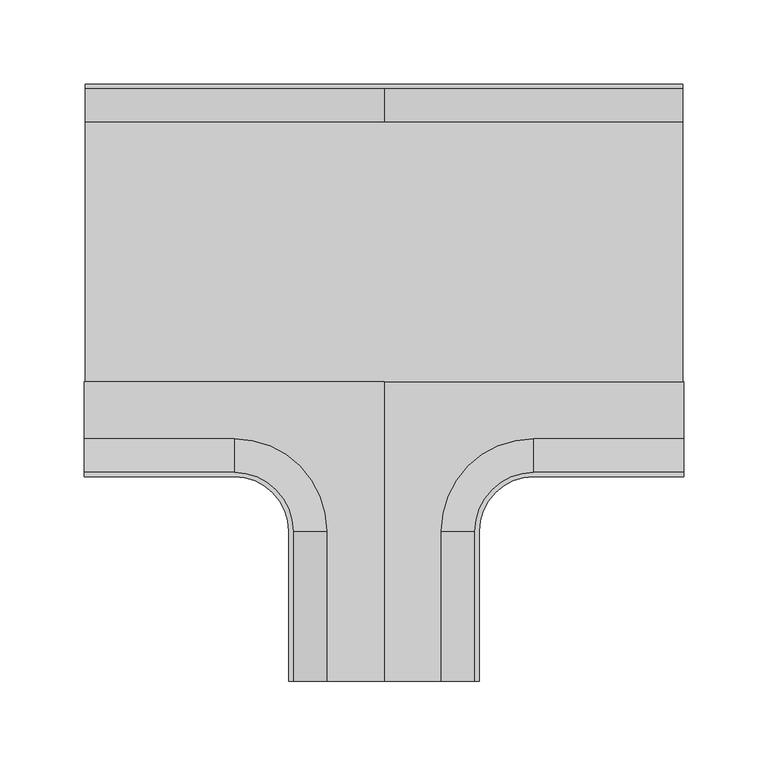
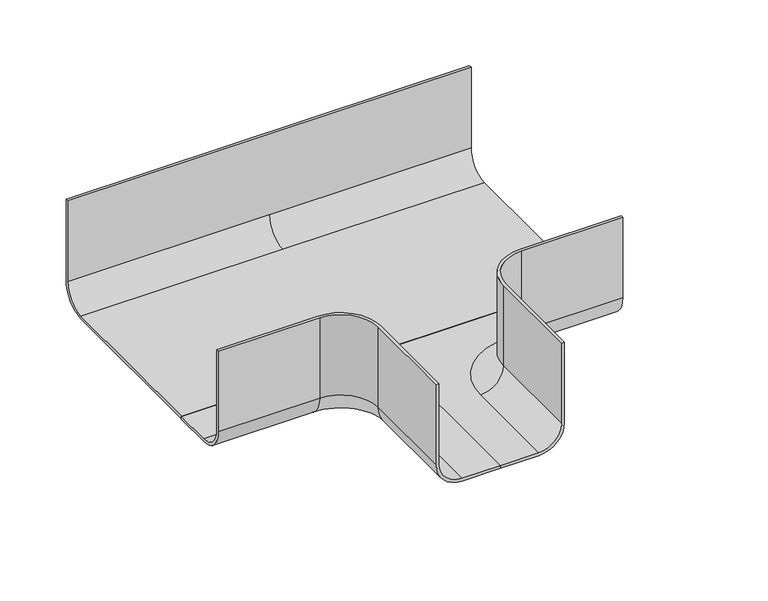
"""IFC4 building model written with IfcOpenShell, lengths in millimetres: cable carrier fitting geometry, ССT_Hyperline_FBTR-240-HTC120 Горизонтальный тройник 240-120-240 для оптического лотка : Горизонтальный тройник 240-120-240 для оптического лотка."""

from ifc_helpers import new_model, si_unit, point, frame, origin, place, context, project, spatial, polyline, circle_curve, ellipse_curve, trimmed, source, transform, mapped, element, save
from ifc_brep_helpers import plane_surface, cylinder_surface, revolved_surface, advanced_brep


def cable_carrier_fitting_a7401430(model_context):
    return source(origin(), model_context, "Body", "AdvancedBrep", [
        advanced_brep(
        [(-178.0, -116.54, -25.0), (-178.0, -116.54, 50.0), (-178.0, -114.0, 50.0), (-178.0, -114.0, -25.0), (-178.0, -94.0, -45.0), (-178.0, -60.0, -45.0), (-178.0, -60.0, -47.54), (-178.0, -94.0, -47.54), (-89.0, -94.0, -47.54), (-89.0, -116.54, -25.0), (-89.0, -114.0, -25.0), (-89.0, -94.0, -45.0), (-89.0, -114.0, 50.0), (-89.0, -116.54, 50.0), (-56.54, -149.0, 50.0), (-56.54, -238.0, 50.0), (-54.0, -238.0, 50.0), (-54.0, -149.0, 50.0), (-34.0, -149.0, -47.54), (-56.54, -149.0, -25.0), (-54.0, -149.0, -25.0), (-34.0, -149.0, -45.0), (0.0, -238.0, -47.54), (0.0, -238.0, -45.0), (-34.0, -238.0, -45.0), (-54.0, -238.0, -25.0), (-56.54, -238.0, -25.0), (-34.0, -238.0, -47.54), (0.0, -60.0, -45.0), (0.0, -60.0, -47.54)],
        [
            (0, 1),
            (1, 2),
            (2, 3),
            (3, 4, circle_curve(frame((-178.0, -94.0, -25.0), z_axis=(1.0, 0.0, 0.0), x_axis=(0.0, -1.0, 0.0)), 20.0)),
            (4, 5),
            (5, 6),
            (6, 7),
            (7, 0, circle_curve(frame((-178.0, -94.0, -25.0), z_axis=(-1.0, 0.0, 0.0), x_axis=(0.0, -1.0, 0.0)), 22.54)),
            (7, 8),
            (8, 9, circle_curve(frame((-89.0, -94.0, -25.0), z_axis=(-1.0, 0.0, 0.0), x_axis=(0.0, -1.0, 0.0)), 22.54)),
            (9, 0),
            (3, 10),
            (10, 11, circle_curve(frame((-89.0, -94.0, -25.0), z_axis=(1.0, 0.0, 0.0), x_axis=(0.0, -1.0, 0.0)), 20.0)),
            (11, 4),
            (2, 12),
            (12, 10),
            (1, 13),
            (13, 14, circle_curve(frame((-89.0, -149.0, 50.0), z_axis=(0.0, 0.0, -1.0), x_axis=(0.0, 1.0, 0.0)), 32.46)),
            (14, 15),
            (15, 16),
            (16, 17),
            (17, 12, circle_curve(frame((-89.0, -149.0, 50.0), z_axis=(0.0, 0.0, 1.0), x_axis=(0.0, 1.0, 0.0)), 35.0)),
            (9, 13),
            (8, 18, circle_curve(frame((-89.0, -149.0, -47.54), z_axis=(0.0, 0.0, -1.0), x_axis=(0.0, 1.0, 0.0)), 55.0)),
            (18, 19, circle_curve(frame((-34.0, -149.0, -25.0), z_axis=(0.0, 1.0, 0.0), x_axis=(-1.0, 0.0, 0.0)), 22.54)),
            (19, 9, circle_curve(frame((-89.0, -149.0, -25.0), z_axis=(0.0, 0.0, 1.0), x_axis=(0.0, 1.0, 0.0)), 32.46)),
            (10, 20, circle_curve(frame((-89.0, -149.0, -25.0), z_axis=(0.0, 0.0, -1.0), x_axis=(0.0, 1.0, 0.0)), 35.0)),
            (20, 21, circle_curve(frame((-34.0, -149.0, -25.0), z_axis=(0.0, -1.0, 0.0), x_axis=(-1.0, 0.0, 0.0)), 20.0)),
            (21, 11, circle_curve(frame((-89.0, -149.0, -45.0), z_axis=(0.0, 0.0, 1.0), x_axis=(0.0, 1.0, 0.0)), 55.0)),
            (17, 20),
            (19, 14),
            (22, 23),
            (23, 24),
            (24, 25, circle_curve(frame((-34.0, -238.0, -25.0), z_axis=(0.0, 1.0, 0.0), x_axis=(-1.0, 0.0, 0.0)), 20.0)),
            (25, 16),
            (15, 26),
            (26, 27, circle_curve(frame((-34.0, -238.0, -25.0), z_axis=(0.0, -1.0, 0.0), x_axis=(-1.0, 0.0, 0.0)), 22.54)),
            (27, 22),
            (26, 19),
            (18, 27),
            (20, 25),
            (24, 21),
            (23, 28),
            (28, 5),
            (6, 29),
            (29, 22),
            (28, 29),
        ],
        [
            plane_surface(frame((-178.0, -114.0, 0.0), z_axis=(-1.0, 0.0, 0.0), x_axis=(0.0, 0.0, 1.0))),
            cylinder_surface(frame((-178.0, -94.0, -25.0), z_axis=(-1.0, 0.0, 0.0), x_axis=(0.0, -1.0, 0.0)), 22.54),
            revolved_surface(polyline([(-89.0, -114.0, -25.0), (-178.0, -114.0, -25.0)]), (-178.0, -94.0, -25.0), (1.0, 0.0, 0.0)),
            plane_surface(frame((-178.0, -114.0, -25.0), z_axis=(0.0, 1.0, 0.0), x_axis=(1.0, 0.0, 0.0))),
            plane_surface(frame((-178.0, -114.0, 50.0), z_axis=(0.0, 0.0, 1.0), x_axis=(1.0, 0.0, 0.0))),
            plane_surface(frame((-178.0, -116.54, 50.0), z_axis=(0.0, -1.0, 0.0), x_axis=(1.0, 0.0, 0.0))),
            revolved_surface(trimmed(ellipse_curve(frame((-89.0, -94.0, -25.0), z_axis=(1.0, 0.0, 0.0), x_axis=(0.0, -1.0, 0.0)), 22.54, 22.54), [point((-89.0, -116.54, -25.0))], [point((-89.0, -94.0, -47.54))], True, "CARTESIAN"), (-89.0, -149.0, 0.0), (0.0, 0.0, 1.0)),
            revolved_surface(trimmed(ellipse_curve(frame((-89.0, -94.0, -25.0), z_axis=(-1.0, 0.0, 0.0), x_axis=(0.0, -1.0, 0.0)), 20.0, 20.0), [point((-89.0, -94.0, -45.0))], [point((-89.0, -114.0, -25.0))], True, "CARTESIAN"), (-89.0, -149.0, 0.0), (0.0, 0.0, 1.0)),
            cylinder_surface(frame((-89.0, -149.0, 0.0), z_axis=(0.0, 0.0, 1.0), x_axis=(0.0, 1.0, 0.0)), 35.0),
            revolved_surface(polyline([(-89.0, -116.53999999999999, 50.0), (-89.0, -116.53999999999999, -25.0)]), (-89.0, -149.0, 0.0), (0.0, 0.0, 1.0)),
            plane_surface(frame((-54.0, -238.0, 0.0), z_axis=(0.0, -1.0, 0.0), x_axis=(0.0, 0.0, 1.0))),
            cylinder_surface(frame((-34.0, -149.0, -25.0), z_axis=(0.0, 1.0, 0.0), x_axis=(-1.0, 0.0, 0.0)), 22.54),
            revolved_surface(polyline([(-54.0, -238.0, -25.0), (-54.0, -149.0, -25.0)]), (-34.0, -149.0, -25.0), (0.0, -1.0, 0.0)),
            plane_surface(frame((-54.0, -149.0, -25.0), z_axis=(1.0, 0.0, 0.0), x_axis=(0.0, -1.0, 0.0))),
            plane_surface(frame((-56.54, -149.0, 50.0), z_axis=(-1.0, 0.0, 0.0), x_axis=(0.0, -1.0, 0.0))),
            plane_surface(frame((0.0, -149.0, -45.0), z_axis=(0.0, 0.0, 1.0), x_axis=(0.0, 1.0, 0.0))),
            plane_surface(frame((0.0, -149.0, -47.54), z_axis=(0.0, 0.0, -1.0), x_axis=(0.0, -1.0, 0.0))),
            plane_surface(frame((-89.0, -60.0, -45.0), z_axis=(0.0, 1.0, 0.0), x_axis=(0.0, 0.0, -1.0))),
            plane_surface(frame((0.0, -60.0, -45.0), z_axis=(1.0, 0.0, 0.0), x_axis=(0.0, 0.0, -1.0))),
        ],
        [
            (0, [[1, 2, 3, 4, 5, 6, 7, 8]]),
            (1, [[9, 10, 11, -8]]),
            (2, [[12, 13, 14, -4]]),
            (3, [[15, 16, -12, -3]]),
            (4, [[17, 18, 19, 20, 21, 22, -15, -2]]),
            (5, [[-11, 23, -17, -1]]),
            (6, [[24, 25, 26, -10]]),
            (7, [[-13, 27, 28, 29]]),
            (8, [[-22, 30, -27, -16]]),
            (9, [[-23, -26, 31, -18]]),
            (10, [[32, 33, 34, 35, -20, 36, 37, 38]]),
            (11, [[-37, 39, -25, 40]]),
            (12, [[-28, 41, -34, 42]]),
            (13, [[-35, -41, -30, -21]]),
            (14, [[-31, -39, -36, -19]]),
            (15, [[43, 44, -5, -14, -29, -42, -33]]),
            (16, [[45, 46, -38, -40, -24, -9, -7]]),
            (17, [[47, -45, -6, -44]]),
            (18, [[-32, -46, -47, -43]]),
        ],
    ),
        advanced_brep(
        [(-177.5, 116.54, -25.0), (-177.5, 94.0, -47.54), (-177.5, -60.0, -47.54), (-177.5, -60.0, -45.0), (-177.5, 94.0, -45.0), (-177.5, 114.0, -25.0), (-177.5, 114.0, 50.0), (-177.5, 116.54, 50.0), (0.0, 116.54, -25.0), (0.0, 94.0, -47.54), (177.5, 94.0, -47.54), (177.5, -60.0, -47.54), (177.5, -60.0, -45.0), (177.5, 94.0, -45.0), (0.0, 94.0, -45.0), (0.0, 114.0, -25.0), (177.5, 114.0, -25.0), (177.5, 114.0, 50.0), (177.5, 116.54, 50.0), (177.5, 116.54, -25.0)],
        [
            (0, 1, circle_curve(frame((-177.5, 94.0, -25.0), z_axis=(-1.0, 0.0, 0.0), x_axis=(0.0, 1.0, 0.0)), 22.54)),
            (1, 2),
            (2, 3),
            (3, 4),
            (4, 5, circle_curve(frame((-177.5, 94.0, -25.0), z_axis=(1.0, 0.0, 0.0), x_axis=(0.0, 1.0, 0.0)), 20.0)),
            (5, 6),
            (6, 7),
            (7, 0),
            (0, 8),
            (8, 9, circle_curve(frame((0.0, 94.0, -25.0), z_axis=(-1.0, 0.0, 0.0), x_axis=(0.0, 1.0, 0.0)), 22.54)),
            (9, 1),
            (9, 10),
            (10, 11),
            (11, 2),
            (11, 12),
            (12, 3),
            (12, 13),
            (13, 14),
            (14, 4),
            (14, 15, circle_curve(frame((0.0, 94.0, -25.0), z_axis=(1.0, 0.0, 0.0), x_axis=(0.0, 1.0, 0.0)), 20.0)),
            (15, 5),
            (15, 16),
            (16, 17),
            (17, 6),
            (7, 18),
            (18, 19),
            (19, 8),
            (18, 17),
            (16, 13, circle_curve(frame((177.5, 94.0, -25.0), z_axis=(-1.0, 0.0, 0.0), x_axis=(0.0, 1.0, 0.0)), 20.0)),
            (10, 19, circle_curve(frame((177.5, 94.0, -25.0), z_axis=(1.0, 0.0, 0.0), x_axis=(0.0, 1.0, 0.0)), 22.54)),
        ],
        [
            plane_surface(frame((-177.5, 114.0, 2.5), z_axis=(-1.0, 0.0, 0.0), x_axis=(0.0, 0.0, 1.0))),
            cylinder_surface(frame((-177.5, 94.0, -25.0), z_axis=(-1.0, 0.0, 0.0), x_axis=(0.0, 1.0, 0.0)), 22.54),
            plane_surface(frame((-177.5, 94.0, -47.54), z_axis=(0.0, 0.0, -1.0), x_axis=(1.0, 0.0, 0.0))),
            plane_surface(frame((-177.5, -60.0, -47.54), z_axis=(0.0, -1.0, 0.0), x_axis=(1.0, 0.0, 0.0))),
            plane_surface(frame((-177.5, -60.0, -45.0), z_axis=(0.0, 0.0, 1.0), x_axis=(1.0, 0.0, 0.0))),
            revolved_surface(polyline([(0.0, 114.0, -25.0), (-177.5, 114.0, -25.0)]), (-177.5, 94.0, -25.0), (1.0, 0.0, 0.0)),
            plane_surface(frame((-177.5, 114.0, -25.0), z_axis=(0.0, -1.0, 0.0), x_axis=(1.0, 0.0, 0.0))),
            plane_surface(frame((-177.5, 116.54, 50.0), z_axis=(0.0, 1.0, 0.0), x_axis=(1.0, 0.0, 0.0))),
            plane_surface(frame((177.5, 114.0, 2.5), z_axis=(1.0, 0.0, 0.0), x_axis=(0.0, 0.0, 1.0))),
            plane_surface(frame((-177.5, 114.0, 50.0), z_axis=(0.0, 0.0, 1.0), x_axis=(1.0, 0.0, 0.0))),
            cylinder_surface(frame((0.0, 94.0, -25.0), z_axis=(-1.0, 0.0, 0.0), x_axis=(0.0, 1.0, 0.0)), 22.54),
            revolved_surface(polyline([(177.5, 114.0, -25.0), (0.0, 114.0, -25.0)]), (0.0, 94.0, -25.0), (1.0, 0.0, 0.0)),
        ],
        [
            (0, [[1, 2, 3, 4, 5, 6, 7, 8]]),
            (1, [[-1, 9, 10, 11]]),
            (2, [[-2, -11, 12, 13, 14]]),
            (3, [[-3, -14, 15, 16]]),
            (4, [[-4, -16, 17, 18, 19]]),
            (5, [[-5, -19, 20, 21]]),
            (6, [[-6, -21, 22, 23, 24]]),
            (7, [[-8, 25, 26, 27, -9]]),
            (8, [[-26, 28, -23, 29, -17, -15, -13, 30]]),
            (9, [[-25, -7, -24, -28]]),
            (10, [[-10, -27, -30, -12]]),
            (11, [[-20, -18, -29, -22]]),
        ],
    ),
        advanced_brep(
        [(178.0, -116.54, -25.0), (178.0, -94.0, -47.54), (178.0, -60.0, -47.54), (178.0, -60.0, -45.0), (178.0, -94.0, -45.0), (178.0, -114.0, -25.0), (178.0, -114.0, 50.0), (178.0, -116.54, 50.0), (89.0, -116.54, -25.0), (89.0, -94.0, -47.54), (89.0, -94.0, -45.0), (89.0, -114.0, -25.0), (89.0, -114.0, 50.0), (54.0, -149.0, 50.0), (54.0, -238.0, 50.0), (56.54, -238.0, 50.0), (56.54, -149.0, 50.0), (89.0, -116.54, 50.0), (56.54, -149.0, -25.0), (34.0, -149.0, -47.54), (34.0, -149.0, -45.0), (54.0, -149.0, -25.0), (0.0, -238.0, -47.54), (34.0, -238.0, -47.54), (56.54, -238.0, -25.0), (54.0, -238.0, -25.0), (34.0, -238.0, -45.0), (0.0, -238.0, -45.0), (0.0, -60.0, -45.0), (0.0, -60.0, -47.54)],
        [
            (0, 1, circle_curve(frame((178.0, -94.0, -25.0), z_axis=(1.0, 0.0, 0.0), x_axis=(0.0, -1.0, 0.0)), 22.54)),
            (1, 2),
            (2, 3),
            (3, 4),
            (4, 5, circle_curve(frame((178.0, -94.0, -25.0), z_axis=(-1.0, 0.0, 0.0), x_axis=(0.0, -1.0, 0.0)), 20.0)),
            (5, 6),
            (6, 7),
            (7, 0),
            (0, 8),
            (8, 9, circle_curve(frame((89.0, -94.0, -25.0), z_axis=(1.0, 0.0, 0.0), x_axis=(0.0, -1.0, 0.0)), 22.54)),
            (9, 1),
            (4, 10),
            (10, 11, circle_curve(frame((89.0, -94.0, -25.0), z_axis=(-1.0, 0.0, 0.0), x_axis=(0.0, -1.0, 0.0)), 20.0)),
            (11, 5),
            (11, 12),
            (12, 6),
            (12, 13, circle_curve(frame((89.0, -149.0, 50.0), z_axis=(0.0, 0.0, 1.0), x_axis=(0.0, 1.0, 0.0)), 35.0)),
            (13, 14),
            (14, 15),
            (15, 16),
            (16, 17, circle_curve(frame((89.0, -149.0, 50.0), z_axis=(0.0, 0.0, -1.0), x_axis=(0.0, 1.0, 0.0)), 32.46)),
            (17, 7),
            (17, 8),
            (8, 18, circle_curve(frame((89.0, -149.0, -25.0), z_axis=(0.0, 0.0, 1.0), x_axis=(0.0, 1.0, 0.0)), 32.46)),
            (18, 19, circle_curve(frame((34.0, -149.0, -25.0), z_axis=(0.0, 1.0, 0.0), x_axis=(1.0, 0.0, 0.0)), 22.54)),
            (19, 9, circle_curve(frame((89.0, -149.0, -47.54), z_axis=(0.0, 0.0, -1.0), x_axis=(0.0, 1.0, 0.0)), 55.0)),
            (10, 20, circle_curve(frame((89.0, -149.0, -45.0), z_axis=(0.0, 0.0, 1.0), x_axis=(0.0, 1.0, 0.0)), 55.0)),
            (20, 21, circle_curve(frame((34.0, -149.0, -25.0), z_axis=(0.0, -1.0, 0.0), x_axis=(1.0, 0.0, 0.0)), 20.0)),
            (21, 11, circle_curve(frame((89.0, -149.0, -25.0), z_axis=(0.0, 0.0, -1.0), x_axis=(0.0, 1.0, 0.0)), 35.0)),
            (21, 13),
            (16, 18),
            (22, 23),
            (23, 24, circle_curve(frame((34.0, -238.0, -25.0), z_axis=(0.0, -1.0, 0.0), x_axis=(1.0, 0.0, 0.0)), 22.54)),
            (24, 15),
            (14, 25),
            (25, 26, circle_curve(frame((34.0, -238.0, -25.0), z_axis=(0.0, 1.0, 0.0), x_axis=(1.0, 0.0, 0.0)), 20.0)),
            (26, 27),
            (27, 22),
            (23, 19),
            (18, 24),
            (20, 26),
            (25, 21),
            (3, 28),
            (28, 27),
            (22, 29),
            (29, 2),
            (29, 28),
        ],
        [
            plane_surface(frame((178.0, -114.0, 0.0), z_axis=(1.0, 0.0, 0.0), x_axis=(0.0, 0.0, 1.0))),
            cylinder_surface(frame((178.0, -94.0, -25.0), z_axis=(1.0, 0.0, 0.0), x_axis=(0.0, -1.0, 0.0)), 22.54),
            revolved_surface(polyline([(89.0, -114.0, -25.0), (178.0, -114.0, -25.0)]), (178.0, -94.0, -25.0), (-1.0, 0.0, 0.0)),
            plane_surface(frame((178.0, -114.0, -25.0), z_axis=(0.0, 1.0, 0.0), x_axis=(-1.0, 0.0, 0.0))),
            plane_surface(frame((178.0, -114.0, 50.0), z_axis=(0.0, 0.0, 1.0), x_axis=(-1.0, 0.0, 0.0))),
            plane_surface(frame((178.0, -116.54, 50.0), z_axis=(0.0, -1.0, 0.0), x_axis=(-1.0, 0.0, 0.0))),
            revolved_surface(trimmed(ellipse_curve(frame((89.0, -94.0, -25.0), z_axis=(1.0, 0.0, 0.0), x_axis=(0.0, -1.0, 0.0)), 22.54, 22.54), [point((89.0, -116.54, -25.0))], [point((89.0, -94.0, -47.54))], True, "CARTESIAN"), (89.0, -149.0, 0.0), (0.0, 0.0, 1.0)),
            revolved_surface(trimmed(ellipse_curve(frame((89.0, -94.0, -25.0), z_axis=(-1.0, 0.0, 0.0), x_axis=(0.0, -1.0, 0.0)), 20.0, 20.0), [point((89.0, -94.0, -45.0))], [point((89.0, -114.0, -25.0))], True, "CARTESIAN"), (89.0, -149.0, 0.0), (0.0, 0.0, 1.0)),
            cylinder_surface(frame((89.0, -149.0, 0.0), z_axis=(0.0, 0.0, 1.0), x_axis=(0.0, 1.0, 0.0)), 35.0),
            revolved_surface(polyline([(89.0, -116.53999999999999, 50.0), (89.0, -116.53999999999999, -25.0)]), (89.0, -149.0, 0.0), (0.0, 0.0, 1.0)),
            plane_surface(frame((54.0, -238.0, 0.0), z_axis=(0.0, -1.0, 0.0), x_axis=(0.0, 0.0, 1.0))),
            cylinder_surface(frame((34.0, -149.0, -25.0), z_axis=(0.0, 1.0, 0.0), x_axis=(1.0, 0.0, 0.0)), 22.54),
            revolved_surface(polyline([(54.0, -238.0, -25.0), (54.0, -149.0, -25.0)]), (34.0, -149.0, -25.0), (0.0, -1.0, 0.0)),
            plane_surface(frame((54.0, -149.0, -25.0), z_axis=(-1.0, 0.0, 0.0), x_axis=(0.0, -1.0, 0.0))),
            plane_surface(frame((56.54, -149.0, 50.0), z_axis=(1.0, 0.0, 0.0), x_axis=(0.0, -1.0, 0.0))),
            plane_surface(frame((0.0, -149.0, -45.0), z_axis=(0.0, 0.0, 1.0), x_axis=(0.0, 1.0, 0.0))),
            plane_surface(frame((0.0, -149.0, -47.54), z_axis=(0.0, 0.0, -1.0), x_axis=(0.0, -1.0, 0.0))),
            plane_surface(frame((89.0, -60.0, -45.0), z_axis=(0.0, 1.0, 0.0), x_axis=(0.0, 0.0, -1.0))),
            plane_surface(frame((0.0, -60.0, -45.0), z_axis=(-1.0, 0.0, 0.0), x_axis=(0.0, 0.0, -1.0))),
        ],
        [
            (0, [[1, 2, 3, 4, 5, 6, 7, 8]]),
            (1, [[-1, 9, 10, 11]]),
            (2, [[-5, 12, 13, 14]]),
            (3, [[-6, -14, 15, 16]]),
            (4, [[-7, -16, 17, 18, 19, 20, 21, 22]]),
            (5, [[-8, -22, 23, -9]]),
            (6, [[-10, 24, 25, 26]]),
            (7, [[27, 28, 29, -13]]),
            (8, [[-15, -29, 30, -17]]),
            (9, [[-21, 31, -24, -23]]),
            (10, [[32, 33, 34, -19, 35, 36, 37, 38]]),
            (11, [[39, -25, 40, -33]]),
            (12, [[41, -36, 42, -28]]),
            (13, [[-18, -30, -42, -35]]),
            (14, [[-20, -34, -40, -31]]),
            (15, [[-37, -41, -27, -12, -4, 43, 44]]),
            (16, [[-2, -11, -26, -39, -32, 45, 46]]),
            (17, [[-43, -3, -46, 47]]),
            (18, [[-44, -47, -45, -38]]),
        ],
    ),
    ])


if __name__ == "__main__":
    model = new_model("IFC4")
    model_context = context("Model", 3, world=origin())
    ifc_project = project(units=[si_unit("LENGTHUNIT", "METRE", prefix="MILLI")], contexts=[model_context])
    site = spatial("IfcSite", under=ifc_project)
    building = spatial("IfcBuilding", under=site)
    placement = place(None, origin())
    cable_carrier_fitting_shape = cable_carrier_fitting_a7401430(model_context)
    element("IfcCableCarrierFitting", 1, ObjectType="ССT_Hyperline_FBTR-240-HTC120 Горизонтальный тройник 240-120-240 для оптического лотка : Горизонтальный тройник 240-120-240 для оптического лотка", at=placement, inside=building, context=model_context, shape_type="MappedRepresentation", body=[
        mapped(cable_carrier_fitting_shape, transform((0.0, 0.0, 0.0), x_axis=(1.0, 0.0, 0.0), y_axis=(0.0, 1.0, 0.0), z_axis=(0.0, 0.0, 1.0))),
    ])
    save(model, "model.ifc")
